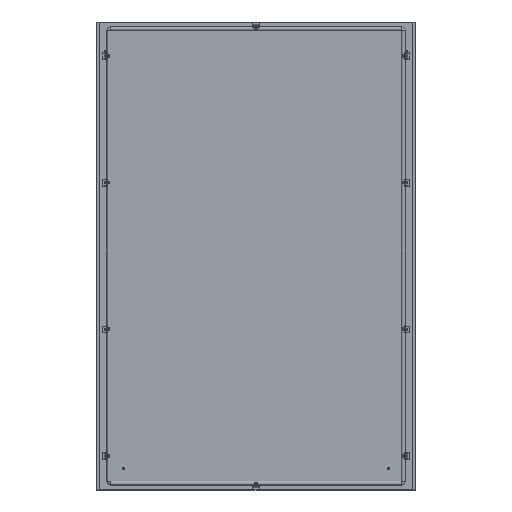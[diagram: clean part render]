
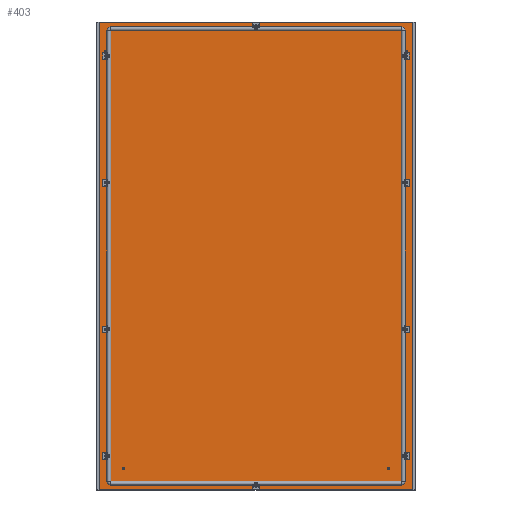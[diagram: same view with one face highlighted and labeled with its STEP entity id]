
A CAD part, top view. The second image highlights one B-rep face of the part: STEP entity #403.
In plain terms, the highlighted planar face has unit normal (0, 0, 1).
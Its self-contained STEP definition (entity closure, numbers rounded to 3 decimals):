
#403 = ADVANCED_FACE('',(#404,#502,#513,#524,#535,#546,#566,#586,#597,
    #608,#628),#648,.F.);
#404 = FACE_BOUND('',#405,.T.);
#405 = EDGE_LOOP('',(#406,#416,#424,#432,#440,#448,#456,#464,#472,#480,
    #488,#496));
#406 = ORIENTED_EDGE('',*,*,#407,.F.);
#407 = EDGE_CURVE('',#408,#410,#412,.T.);
#408 = VERTEX_POINT('',#409);
#409 = CARTESIAN_POINT('',(-595.5,877.5,0.));
#410 = VERTEX_POINT('',#411);
#411 = CARTESIAN_POINT('',(-595.3,877.5,0.));
#412 = LINE('',#413,#414);
#413 = CARTESIAN_POINT('',(0.,877.5,0.
    ));
#414 = VECTOR('',#415,1.);
#415 = DIRECTION('',(1.,0.,0.));
#416 = ORIENTED_EDGE('',*,*,#417,.T.);
#417 = EDGE_CURVE('',#408,#418,#420,.T.);
#418 = VERTEX_POINT('',#419);
#419 = CARTESIAN_POINT('',(-595.5,-877.5,0.));
#420 = LINE('',#421,#422);
#421 = CARTESIAN_POINT('',(-595.5,0.,0.));
#422 = VECTOR('',#423,1.);
#423 = DIRECTION('',(0.,-1.,-0.));
#424 = ORIENTED_EDGE('',*,*,#425,.T.);
#425 = EDGE_CURVE('',#418,#426,#428,.T.);
#426 = VERTEX_POINT('',#427);
#427 = CARTESIAN_POINT('',(-595.3,-877.5,0.));
#428 = LINE('',#429,#430);
#429 = CARTESIAN_POINT('',(0.,-877.5,
    0.));
#430 = VECTOR('',#431,1.);
#431 = DIRECTION('',(1.,-0.,-0.));
#432 = ORIENTED_EDGE('',*,*,#433,.F.);
#433 = EDGE_CURVE('',#434,#426,#436,.T.);
#434 = VERTEX_POINT('',#435);
#435 = CARTESIAN_POINT('',(-595.3,-876.,0.));
#436 = LINE('',#437,#438);
#437 = CARTESIAN_POINT('',(-595.3,0.,0.
    ));
#438 = VECTOR('',#439,1.);
#439 = DIRECTION('',(0.,-1.,0.));
#440 = ORIENTED_EDGE('',*,*,#441,.T.);
#441 = EDGE_CURVE('',#434,#442,#444,.T.);
#442 = VERTEX_POINT('',#443);
#443 = CARTESIAN_POINT('',(595.3,-876.,0.));
#444 = LINE('',#445,#446);
#445 = CARTESIAN_POINT('',(0.,-876.,0.
    ));
#446 = VECTOR('',#447,1.);
#447 = DIRECTION('',(1.,-0.,-0.));
#448 = ORIENTED_EDGE('',*,*,#449,.T.);
#449 = EDGE_CURVE('',#442,#450,#452,.T.);
#450 = VERTEX_POINT('',#451);
#451 = CARTESIAN_POINT('',(595.3,-877.5,0.));
#452 = LINE('',#453,#454);
#453 = CARTESIAN_POINT('',(595.3,-876.,0.));
#454 = VECTOR('',#455,1.);
#455 = DIRECTION('',(0.,-1.,-0.));
#456 = ORIENTED_EDGE('',*,*,#457,.F.);
#457 = EDGE_CURVE('',#458,#450,#460,.T.);
#458 = VERTEX_POINT('',#459);
#459 = CARTESIAN_POINT('',(595.5,-877.5,0.));
#460 = LINE('',#461,#462);
#461 = CARTESIAN_POINT('',(0.,-877.5,
    0.));
#462 = VECTOR('',#463,1.);
#463 = DIRECTION('',(-1.,0.,0.));
#464 = ORIENTED_EDGE('',*,*,#465,.T.);
#465 = EDGE_CURVE('',#458,#466,#468,.T.);
#466 = VERTEX_POINT('',#467);
#467 = CARTESIAN_POINT('',(595.5,877.5,0.));
#468 = LINE('',#469,#470);
#469 = CARTESIAN_POINT('',(595.5,0.,0.));
#470 = VECTOR('',#471,1.);
#471 = DIRECTION('',(-0.,1.,-0.));
#472 = ORIENTED_EDGE('',*,*,#473,.T.);
#473 = EDGE_CURVE('',#466,#474,#476,.T.);
#474 = VERTEX_POINT('',#475);
#475 = CARTESIAN_POINT('',(595.3,877.5,0.));
#476 = LINE('',#477,#478);
#477 = CARTESIAN_POINT('',(0.,877.5,0.)
  );
#478 = VECTOR('',#479,1.);
#479 = DIRECTION('',(-1.,-0.,-0.));
#480 = ORIENTED_EDGE('',*,*,#481,.F.);
#481 = EDGE_CURVE('',#482,#474,#484,.T.);
#482 = VERTEX_POINT('',#483);
#483 = CARTESIAN_POINT('',(595.3,876.,0.));
#484 = LINE('',#485,#486);
#485 = CARTESIAN_POINT('',(595.3,0.,
    0.));
#486 = VECTOR('',#487,1.);
#487 = DIRECTION('',(0.,1.,0.));
#488 = ORIENTED_EDGE('',*,*,#489,.T.);
#489 = EDGE_CURVE('',#482,#490,#492,.T.);
#490 = VERTEX_POINT('',#491);
#491 = CARTESIAN_POINT('',(-595.3,876.,0.));
#492 = LINE('',#493,#494);
#493 = CARTESIAN_POINT('',(0.,876.,0.)
  );
#494 = VECTOR('',#495,1.);
#495 = DIRECTION('',(-1.,-0.,-0.));
#496 = ORIENTED_EDGE('',*,*,#497,.T.);
#497 = EDGE_CURVE('',#490,#410,#498,.T.);
#498 = LINE('',#499,#500);
#499 = CARTESIAN_POINT('',(-595.3,876.,0.));
#500 = VECTOR('',#501,1.);
#501 = DIRECTION('',(0.,1.,-0.));
#502 = FACE_BOUND('',#503,.T.);
#503 = EDGE_LOOP('',(#504));
#504 = ORIENTED_EDGE('',*,*,#505,.T.);
#505 = EDGE_CURVE('',#506,#506,#508,.T.);
#506 = VERTEX_POINT('',#507);
#507 = CARTESIAN_POINT('',(-4.75,864.5,0.));
#508 = CIRCLE('',#509,4.75);
#509 = AXIS2_PLACEMENT_3D('',#510,#511,#512);
#510 = CARTESIAN_POINT('',(0.,864.5,0.));
#511 = DIRECTION('',(0.,0.,-1.));
#512 = DIRECTION('',(-1.,0.,0.));
#513 = FACE_BOUND('',#514,.T.);
#514 = EDGE_LOOP('',(#515));
#515 = ORIENTED_EDGE('',*,*,#516,.T.);
#516 = EDGE_CURVE('',#517,#517,#519,.T.);
#517 = VERTEX_POINT('',#518);
#518 = CARTESIAN_POINT('',(4.75,-864.5,0.));
#519 = CIRCLE('',#520,4.75);
#520 = AXIS2_PLACEMENT_3D('',#521,#522,#523);
#521 = CARTESIAN_POINT('',(0.,-864.5,0.));
#522 = DIRECTION('',(0.,0.,-1.));
#523 = DIRECTION('',(1.,0.,0.));
#524 = FACE_BOUND('',#525,.T.);
#525 = EDGE_LOOP('',(#526));
#526 = ORIENTED_EDGE('',*,*,#527,.T.);
#527 = EDGE_CURVE('',#528,#528,#530,.T.);
#528 = VERTEX_POINT('',#529);
#529 = CARTESIAN_POINT('',(-564.5,-270.25,
    0.));
#530 = CIRCLE('',#531,4.75);
#531 = AXIS2_PLACEMENT_3D('',#532,#533,#534);
#532 = CARTESIAN_POINT('',(-564.5,-275.,0.));
#533 = DIRECTION('',(0.,0.,-1.));
#534 = DIRECTION('',(0.,1.,0.));
#535 = FACE_BOUND('',#536,.T.);
#536 = EDGE_LOOP('',(#537));
#537 = ORIENTED_EDGE('',*,*,#538,.T.);
#538 = EDGE_CURVE('',#539,#539,#541,.T.);
#539 = VERTEX_POINT('',#540);
#540 = CARTESIAN_POINT('',(564.5,-279.75,
    0.));
#541 = CIRCLE('',#542,4.75);
#542 = AXIS2_PLACEMENT_3D('',#543,#544,#545);
#543 = CARTESIAN_POINT('',(564.5,-275.,0.));
#544 = DIRECTION('',(-0.,0.,-1.));
#545 = DIRECTION('',(0.,-1.,0.));
#546 = FACE_BOUND('',#547,.T.);
#547 = EDGE_LOOP('',(#548,#559));
#548 = ORIENTED_EDGE('',*,*,#549,.F.);
#549 = EDGE_CURVE('',#550,#552,#554,.T.);
#550 = VERTEX_POINT('',#551);
#551 = CARTESIAN_POINT('',(-564.5,754.75,
    0.));
#552 = VERTEX_POINT('',#553);
#553 = CARTESIAN_POINT('',(-564.5,745.25,
    0.));
#554 = CIRCLE('',#555,4.75);
#555 = AXIS2_PLACEMENT_3D('',#556,#557,#558);
#556 = CARTESIAN_POINT('',(-564.5,750.,
    0.));
#557 = DIRECTION('',(0.,0.,1.));
#558 = DIRECTION('',(0.,1.,0.));
#559 = ORIENTED_EDGE('',*,*,#560,.F.);
#560 = EDGE_CURVE('',#552,#550,#561,.T.);
#561 = CIRCLE('',#562,4.75);
#562 = AXIS2_PLACEMENT_3D('',#563,#564,#565);
#563 = CARTESIAN_POINT('',(-564.5,750.,
    0.));
#564 = DIRECTION('',(0.,0.,1.));
#565 = DIRECTION('',(0.,1.,0.));
#566 = FACE_BOUND('',#567,.T.);
#567 = EDGE_LOOP('',(#568,#579));
#568 = ORIENTED_EDGE('',*,*,#569,.F.);
#569 = EDGE_CURVE('',#570,#572,#574,.T.);
#570 = VERTEX_POINT('',#571);
#571 = CARTESIAN_POINT('',(564.5,745.25,
    0.));
#572 = VERTEX_POINT('',#573);
#573 = CARTESIAN_POINT('',(564.5,754.75,
    0.));
#574 = CIRCLE('',#575,4.75);
#575 = AXIS2_PLACEMENT_3D('',#576,#577,#578);
#576 = CARTESIAN_POINT('',(564.5,750.,
    0.));
#577 = DIRECTION('',(0.,0.,1.));
#578 = DIRECTION('',(0.,-1.,0.));
#579 = ORIENTED_EDGE('',*,*,#580,.F.);
#580 = EDGE_CURVE('',#572,#570,#581,.T.);
#581 = CIRCLE('',#582,4.75);
#582 = AXIS2_PLACEMENT_3D('',#583,#584,#585);
#583 = CARTESIAN_POINT('',(564.5,750.,
    0.));
#584 = DIRECTION('',(0.,0.,1.));
#585 = DIRECTION('',(0.,-1.,0.));
#586 = FACE_BOUND('',#587,.T.);
#587 = EDGE_LOOP('',(#588));
#588 = ORIENTED_EDGE('',*,*,#589,.T.);
#589 = EDGE_CURVE('',#590,#590,#592,.T.);
#590 = VERTEX_POINT('',#591);
#591 = CARTESIAN_POINT('',(-564.5,-745.25,
    0.));
#592 = CIRCLE('',#593,4.75);
#593 = AXIS2_PLACEMENT_3D('',#594,#595,#596);
#594 = CARTESIAN_POINT('',(-564.5,-750.,0.));
#595 = DIRECTION('',(0.,0.,-1.));
#596 = DIRECTION('',(0.,1.,0.));
#597 = FACE_BOUND('',#598,.T.);
#598 = EDGE_LOOP('',(#599));
#599 = ORIENTED_EDGE('',*,*,#600,.T.);
#600 = EDGE_CURVE('',#601,#601,#603,.T.);
#601 = VERTEX_POINT('',#602);
#602 = CARTESIAN_POINT('',(564.5,-754.75,
    0.));
#603 = CIRCLE('',#604,4.75);
#604 = AXIS2_PLACEMENT_3D('',#605,#606,#607);
#605 = CARTESIAN_POINT('',(564.5,-750.,0.));
#606 = DIRECTION('',(-0.,0.,-1.));
#607 = DIRECTION('',(0.,-1.,0.));
#608 = FACE_BOUND('',#609,.T.);
#609 = EDGE_LOOP('',(#610,#621));
#610 = ORIENTED_EDGE('',*,*,#611,.F.);
#611 = EDGE_CURVE('',#612,#614,#616,.T.);
#612 = VERTEX_POINT('',#613);
#613 = CARTESIAN_POINT('',(564.5,270.25,
    0.));
#614 = VERTEX_POINT('',#615);
#615 = CARTESIAN_POINT('',(564.5,279.75,
    0.));
#616 = CIRCLE('',#617,4.75);
#617 = AXIS2_PLACEMENT_3D('',#618,#619,#620);
#618 = CARTESIAN_POINT('',(564.5,275.,
    0.));
#619 = DIRECTION('',(0.,0.,1.));
#620 = DIRECTION('',(0.,-1.,0.));
#621 = ORIENTED_EDGE('',*,*,#622,.F.);
#622 = EDGE_CURVE('',#614,#612,#623,.T.);
#623 = CIRCLE('',#624,4.75);
#624 = AXIS2_PLACEMENT_3D('',#625,#626,#627);
#625 = CARTESIAN_POINT('',(564.5,275.,
    0.));
#626 = DIRECTION('',(0.,0.,1.));
#627 = DIRECTION('',(0.,-1.,0.));
#628 = FACE_BOUND('',#629,.T.);
#629 = EDGE_LOOP('',(#630,#641));
#630 = ORIENTED_EDGE('',*,*,#631,.F.);
#631 = EDGE_CURVE('',#632,#634,#636,.T.);
#632 = VERTEX_POINT('',#633);
#633 = CARTESIAN_POINT('',(-564.5,279.75,
    0.));
#634 = VERTEX_POINT('',#635);
#635 = CARTESIAN_POINT('',(-564.5,270.25,
    0.));
#636 = CIRCLE('',#637,4.75);
#637 = AXIS2_PLACEMENT_3D('',#638,#639,#640);
#638 = CARTESIAN_POINT('',(-564.5,275.,
    0.));
#639 = DIRECTION('',(0.,0.,1.));
#640 = DIRECTION('',(0.,1.,0.));
#641 = ORIENTED_EDGE('',*,*,#642,.F.);
#642 = EDGE_CURVE('',#634,#632,#643,.T.);
#643 = CIRCLE('',#644,4.75);
#644 = AXIS2_PLACEMENT_3D('',#645,#646,#647);
#645 = CARTESIAN_POINT('',(-564.5,275.,
    0.));
#646 = DIRECTION('',(0.,0.,1.));
#647 = DIRECTION('',(0.,1.,0.));
#648 = PLANE('',#649);
#649 = AXIS2_PLACEMENT_3D('',#650,#651,#652);
#650 = CARTESIAN_POINT('',(0.,0.,0.));
#651 = DIRECTION('',(0.,0.,-1.));
#652 = DIRECTION('',(-1.,0.,0.));
